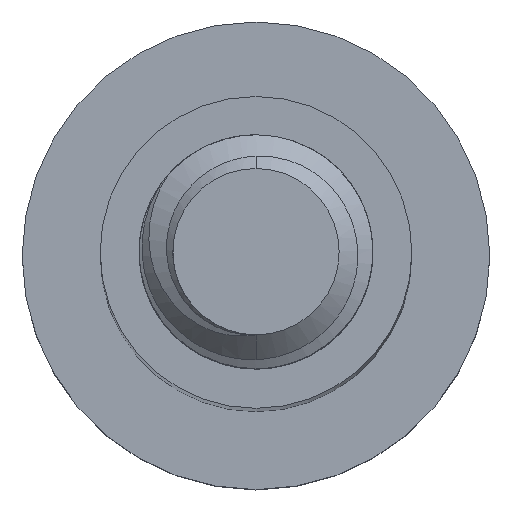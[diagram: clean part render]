
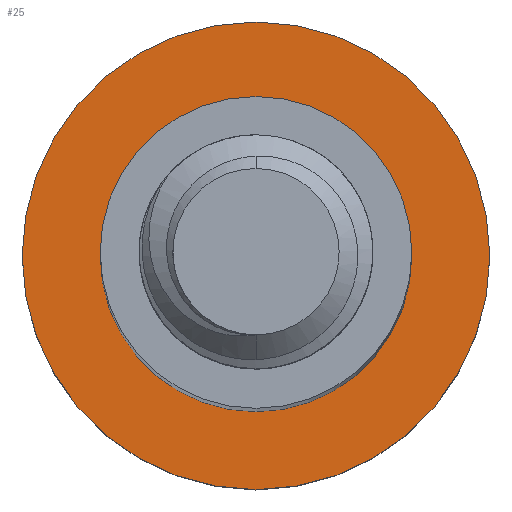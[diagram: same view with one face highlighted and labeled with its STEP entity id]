
A CAD part, top view. The second image highlights one B-rep face of the part: STEP entity #25.
In plain terms, the highlighted planar face has unit normal (0, 0, 1).
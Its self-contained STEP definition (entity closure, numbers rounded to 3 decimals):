
#25 = ADVANCED_FACE ( 'NONE', ( #1683, #2997 ), #3999, .F. ) ;
#49 = CARTESIAN_POINT ( 'NONE',  ( 0., 0., -50. ) ) ;
#176 = CIRCLE ( 'NONE', #2524, 4. ) ;
#184 = EDGE_CURVE ( 'NONE', #1195, #2429, #803, .T. ) ;
#460 = DIRECTION ( 'NONE',  ( 0., 0., -1. ) ) ;
#589 = CARTESIAN_POINT ( 'NONE',  ( 6., 0., -50. ) ) ;
#596 = CARTESIAN_POINT ( 'NONE',  ( -6., 0., -50. ) ) ;
#664 = CIRCLE ( 'NONE', #1625, 6. ) ;
#766 = EDGE_CURVE ( 'NONE', #2429, #1195, #664, .T. ) ;
#803 = CIRCLE ( 'NONE', #1896, 6. ) ;
#832 = ORIENTED_EDGE ( 'NONE', *, *, #184, .F. ) ;
#913 = EDGE_CURVE ( 'NONE', #3637, #3475, #176, .T. ) ;
#1093 = AXIS2_PLACEMENT_3D ( 'NONE', #3461, #460, #3416 ) ;
#1140 = DIRECTION ( 'NONE',  ( -1., 0., 0. ) ) ;
#1193 = CARTESIAN_POINT ( 'NONE',  ( 4., 0., -50. ) ) ;
#1195 = VERTEX_POINT ( 'NONE', #596 ) ;
#1240 = DIRECTION ( 'NONE',  ( 0., 0., -1. ) ) ;
#1258 = ORIENTED_EDGE ( 'NONE', *, *, #3670, .T. ) ;
#1280 = DIRECTION ( 'NONE',  ( -1., 0., 0. ) ) ;
#1625 = AXIS2_PLACEMENT_3D ( 'NONE', #2854, #1240, #1280 ) ;
#1683 = FACE_BOUND ( 'NONE', #3545, .T. ) ;
#1699 = CIRCLE ( 'NONE', #1093, 4. ) ;
#1743 = ORIENTED_EDGE ( 'NONE', *, *, #913, .T. ) ;
#1872 = DIRECTION ( 'NONE',  ( -1., 0., 0. ) ) ;
#1896 = AXIS2_PLACEMENT_3D ( 'NONE', #3112, #4167, #1140 ) ;
#2429 = VERTEX_POINT ( 'NONE', #589 ) ;
#2521 = DIRECTION ( 'NONE',  ( 0., 0., -1. ) ) ;
#2524 = AXIS2_PLACEMENT_3D ( 'NONE', #3514, #2521, #1872 ) ;
#2782 = DIRECTION ( 'NONE',  ( 0., 0., -1. ) ) ;
#2854 = CARTESIAN_POINT ( 'NONE',  ( 0., 0., -50. ) ) ;
#2997 = FACE_OUTER_BOUND ( 'NONE', #4132, .T. ) ;
#3038 = DIRECTION ( 'NONE',  ( -1., 0., 0. ) ) ;
#3112 = CARTESIAN_POINT ( 'NONE',  ( 0., 0., -50. ) ) ;
#3134 = ORIENTED_EDGE ( 'NONE', *, *, #766, .F. ) ;
#3416 = DIRECTION ( 'NONE',  ( -1., 0., 0. ) ) ;
#3461 = CARTESIAN_POINT ( 'NONE',  ( 0., 0., -50. ) ) ;
#3475 = VERTEX_POINT ( 'NONE', #4024 ) ;
#3514 = CARTESIAN_POINT ( 'NONE',  ( 0., 0., -50. ) ) ;
#3545 = EDGE_LOOP ( 'NONE', ( #1258, #1743 ) ) ;
#3637 = VERTEX_POINT ( 'NONE', #1193 ) ;
#3670 = EDGE_CURVE ( 'NONE', #3475, #3637, #1699, .T. ) ;
#3999 = PLANE ( 'NONE',  #4170 ) ;
#4024 = CARTESIAN_POINT ( 'NONE',  ( -4., 0., -50. ) ) ;
#4132 = EDGE_LOOP ( 'NONE', ( #3134, #832 ) ) ;
#4167 = DIRECTION ( 'NONE',  ( 0., 0., -1. ) ) ;
#4170 = AXIS2_PLACEMENT_3D ( 'NONE', #49, #2782, #3038 ) ;
